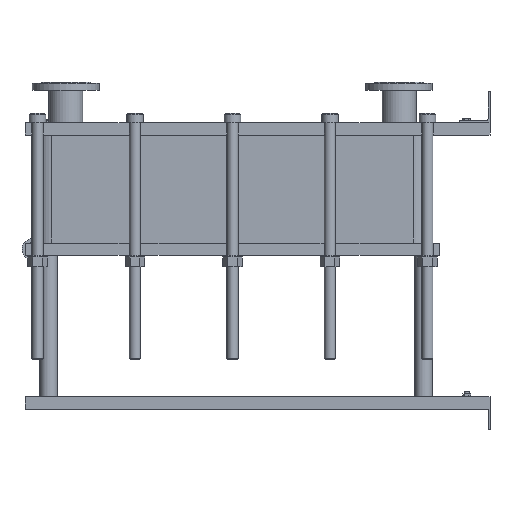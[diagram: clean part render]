
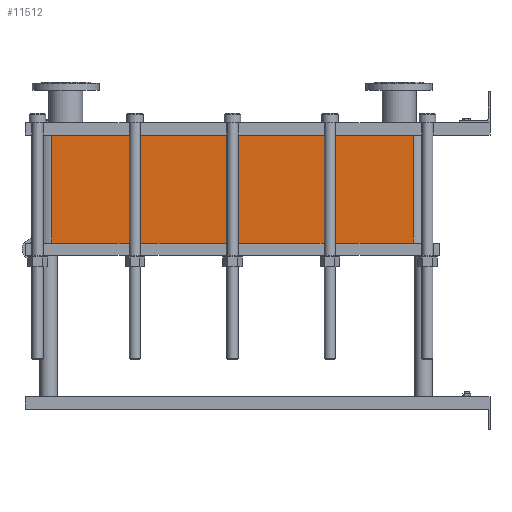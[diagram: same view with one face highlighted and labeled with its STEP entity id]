
A CAD part, left-side view. The second image highlights one B-rep face of the part: STEP entity #11512.
In plain terms, the highlighted planar face has unit normal (-1, 0, 0).
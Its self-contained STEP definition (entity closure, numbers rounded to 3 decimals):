
#1129=LINE('',#23232,#2102);
#1130=LINE('',#23236,#2103);
#1131=LINE('',#23238,#2104);
#1132=LINE('',#23239,#2105);
#2102=VECTOR('',#15887,10.);
#2103=VECTOR('',#15892,10.);
#2104=VECTOR('',#15893,10.);
#2105=VECTOR('',#15894,10.);
#3267=FACE_OUTER_BOUND('',#4093,.T.);
#4093=EDGE_LOOP('',(#10103,#10104,#10105,#10106));
#5642=VERTEX_POINT('',#23229);
#5643=VERTEX_POINT('',#23231);
#5644=VERTEX_POINT('',#23235);
#5645=VERTEX_POINT('',#23237);
#7159=EDGE_CURVE('',#5643,#5642,#1129,.T.);
#7161=EDGE_CURVE('',#5642,#5644,#1130,.T.);
#7162=EDGE_CURVE('',#5645,#5644,#1131,.T.);
#7163=EDGE_CURVE('',#5645,#5643,#1132,.T.);
#10103=ORIENTED_EDGE('',*,*,#7161,.T.);
#10104=ORIENTED_EDGE('',*,*,#7162,.F.);
#10105=ORIENTED_EDGE('',*,*,#7163,.T.);
#10106=ORIENTED_EDGE('',*,*,#7159,.T.);
#10857=PLANE('',#12751);
#11512=ADVANCED_FACE('',(#3267),#10857,.T.);
#12751=AXIS2_PLACEMENT_3D('',#23234,#15890,#15891);
#15887=DIRECTION('',(0.,0.,-1.));
#15890=DIRECTION('center_axis',(-1.,0.,0.));
#15891=DIRECTION('ref_axis',(0.,1.,0.));
#15892=DIRECTION('',(0.,-1.,0.));
#15893=DIRECTION('',(0.,0.,-1.));
#15894=DIRECTION('',(0.,1.,0.));
#23229=CARTESIAN_POINT('',(-200.,1414.,-348.45));
#23231=CARTESIAN_POINT('',(-200.,1414.,0.));
#23232=CARTESIAN_POINT('',(-200.,1414.,0.));
#23234=CARTESIAN_POINT('Origin',(-200.,248.,0.));
#23235=CARTESIAN_POINT('',(-200.,248.,-348.45));
#23236=CARTESIAN_POINT('',(-200.,539.5,-348.45));
#23237=CARTESIAN_POINT('',(-200.,248.,0.));
#23238=CARTESIAN_POINT('',(-200.,248.,0.));
#23239=CARTESIAN_POINT('',(-200.,248.,0.));
